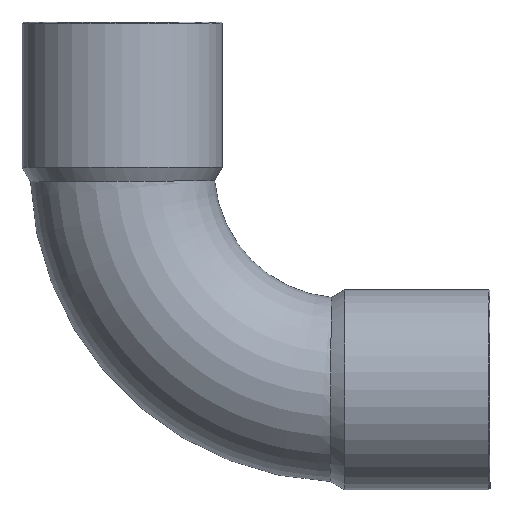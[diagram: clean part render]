
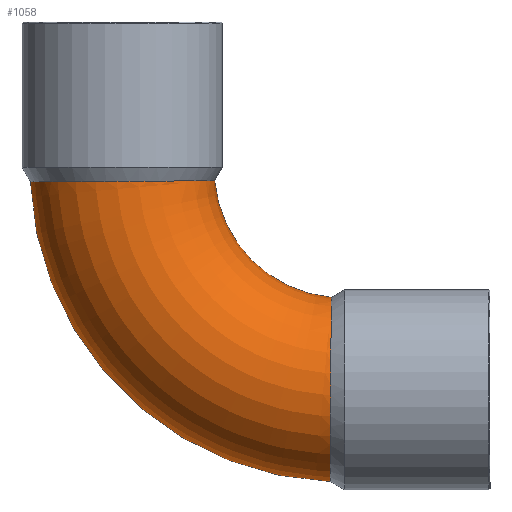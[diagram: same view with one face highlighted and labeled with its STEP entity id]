
A CAD part, front view. The second image highlights one B-rep face of the part: STEP entity #1058.
In plain terms, the highlighted toroidal (fillet/blend) face has major radius 21.6 mm and minor radius 9 mm.
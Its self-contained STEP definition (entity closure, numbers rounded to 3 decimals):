
#49=CARTESIAN_POINT('',(-8.54,0.,-1.244));
#50=VERTEX_POINT('',#49);
#51=CARTESIAN_POINT('',(20.791,0.,-30.575));
#52=VERTEX_POINT('',#51);
#53=CARTESIAN_POINT('',(22.035,0.,0.0));
#54=DIRECTION('',(0.0,-1.0,0.0));
#55=DIRECTION('',(0.0,0.0,-1.0));
#56=AXIS2_PLACEMENT_3D('',#53,#54,#55);
#57=CIRCLE('',#56,30.6);
#58=EDGE_CURVE('',#50,#52,#57,.T.);
#60=CARTESIAN_POINT('',(9.484,0.,-1.114));
#61=VERTEX_POINT('',#60);
#85=CARTESIAN_POINT('',(20.921,0.,-12.551));
#86=VERTEX_POINT('',#85);
#87=CARTESIAN_POINT('',(22.035,0.,0.0));
#88=DIRECTION('',(0.0,1.0,0.0));
#89=DIRECTION('',(0.0,0.0,-1.0));
#90=AXIS2_PLACEMENT_3D('',#87,#88,#89);
#91=CIRCLE('',#90,12.6);
#92=EDGE_CURVE('',#86,#61,#91,.T.);
#224=CARTESIAN_POINT('',(9.484,0.,-1.114));
#225=CARTESIAN_POINT('',(9.484,-0.077,-1.114));
#226=CARTESIAN_POINT('',(9.483,-0.155,-1.114));
#227=CARTESIAN_POINT('',(9.451,-1.402,-1.115));
#228=CARTESIAN_POINT('',(9.192,-2.555,-1.119));
#229=CARTESIAN_POINT('',(8.246,-4.7,-1.131));
#230=CARTESIAN_POINT('',(7.566,-5.671,-1.139));
#231=CARTESIAN_POINT('',(5.872,-7.298,-1.157));
#232=CARTESIAN_POINT('',(4.874,-7.939,-1.167));
#233=CARTESIAN_POINT('',(2.688,-8.801,-1.185));
#234=CARTESIAN_POINT('',(1.521,-9.015,-1.193));
#235=CARTESIAN_POINT('',(-0.827,-8.983,-1.208));
#236=CARTESIAN_POINT('',(-1.986,-8.739,-1.215));
#237=CARTESIAN_POINT('',(-4.144,-7.819,-1.226));
#238=CARTESIAN_POINT('',(-5.123,-7.153,-1.23));
#239=CARTESIAN_POINT('',(-6.769,-5.485,-1.237));
#240=CARTESIAN_POINT('',(-7.422,-4.498,-1.24));
#241=CARTESIAN_POINT('',(-8.311,-2.331,-1.243));
#242=CARTESIAN_POINT('',(-8.54,-1.171,-1.244));
#243=CARTESIAN_POINT('',(-8.54,0.,-1.244));
#244=B_SPLINE_CURVE_WITH_KNOTS('',3,(#224,#225,#226,#227,#228,#229,#230,#231,#232,#233,#234,#235,#236,#237,#238,#239,#240,#241,#242,#243),.UNSPECIFIED.,.F.,.U.,(4,2,2,2,2,2,2,2,2,4),(-2.838,-2.815,-2.464,-2.112,-1.759,-1.407,-1.055,-0.703,-0.351,0.0),.UNSPECIFIED.);
#245=EDGE_CURVE('',#61,#50,#244,.T.);
#1025=CARTESIAN_POINT('',(22.035,0.,0.0));
#1026=DIRECTION('',(0.0,-1.0,0.0));
#1027=DIRECTION('',(0.0,0.0,-1.0));
#1028=AXIS2_PLACEMENT_3D('',#1025,#1026,#1027);
#1029=TOROIDAL_SURFACE('',#1028,21.6,9.);
#1030=ORIENTED_EDGE('',*,*,#58,.T.);
#1031=CARTESIAN_POINT('',(20.791,0.,-30.575));
#1032=CARTESIAN_POINT('',(20.791,-0.663,-30.575));
#1033=CARTESIAN_POINT('',(20.792,-1.324,-30.501));
#1034=CARTESIAN_POINT('',(20.793,-2.619,-30.211));
#1035=CARTESIAN_POINT('',(20.793,-3.248,-29.994));
#1036=CARTESIAN_POINT('',(20.796,-4.907,-29.209));
#1037=CARTESIAN_POINT('',(20.799,-5.858,-28.505));
#1038=CARTESIAN_POINT('',(20.807,-7.439,-26.772));
#1039=CARTESIAN_POINT('',(20.812,-8.052,-25.759));
#1040=CARTESIAN_POINT('',(20.823,-8.857,-23.553));
#1041=CARTESIAN_POINT('',(20.83,-9.04,-22.381));
#1042=CARTESIAN_POINT('',(20.845,-8.946,-20.033));
#1043=CARTESIAN_POINT('',(20.854,-8.67,-18.879));
#1044=CARTESIAN_POINT('',(20.872,-7.692,-16.743));
#1045=CARTESIAN_POINT('',(20.882,-7.,-15.781));
#1046=CARTESIAN_POINT('',(20.899,-5.288,-14.179));
#1047=CARTESIAN_POINT('',(20.907,-4.286,-13.553));
#1048=CARTESIAN_POINT('',(20.918,-2.172,-12.749));
#1049=CARTESIAN_POINT('',(20.921,-1.09,-12.551));
#1050=CARTESIAN_POINT('',(20.921,0.,-12.551));
#1051=B_SPLINE_CURVE_WITH_KNOTS('',3,(#1031,#1032,#1033,#1034,#1035,#1036,#1037,#1038,#1039,#1040,#1041,#1042,#1043,#1044,#1045,#1046,#1047,#1048,#1049,#1050),.UNSPECIFIED.,.F.,.U.,(4,2,2,2,2,2,2,2,2,4),(-5.675,-5.477,-5.278,-4.926,-4.574,-4.221,-3.869,-3.517,-3.166,-2.838),.UNSPECIFIED.);
#1052=EDGE_CURVE('',#52,#86,#1051,.T.);
#1053=ORIENTED_EDGE('',*,*,#1052,.T.);
#1054=ORIENTED_EDGE('',*,*,#92,.T.);
#1055=ORIENTED_EDGE('',*,*,#245,.T.);
#1056=EDGE_LOOP('',(#1030,#1053,#1054,#1055));
#1057=FACE_OUTER_BOUND('',#1056,.T.);
#1058=ADVANCED_FACE('',(#1057),#1029,.T.);
